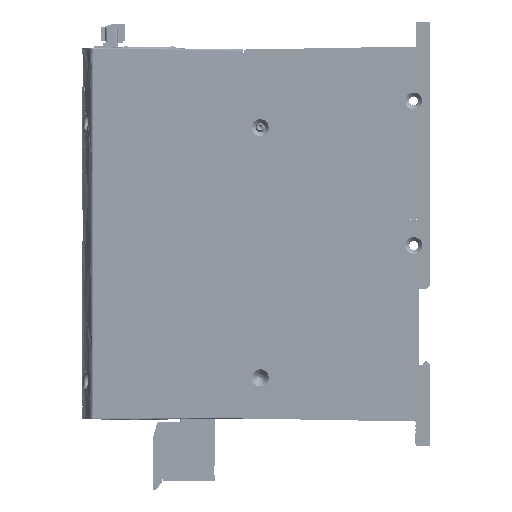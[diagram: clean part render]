
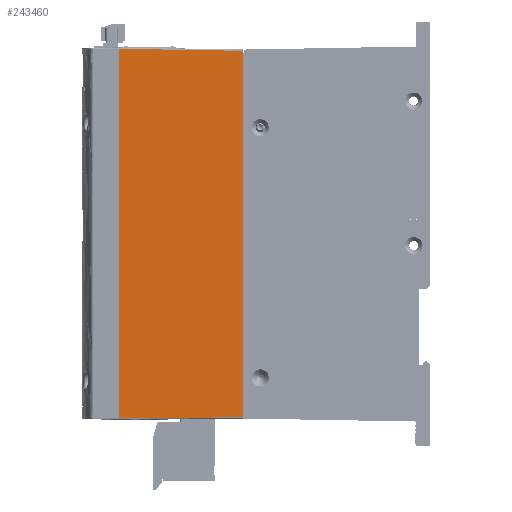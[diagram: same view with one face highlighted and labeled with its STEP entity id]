
A CAD part, left-side view. The second image highlights one B-rep face of the part: STEP entity #243460.
In plain terms, the highlighted planar face has unit normal (-1, -0.009, 0) as drawn and (-1, 0, -0.009) by its records, which use the part's own axes.
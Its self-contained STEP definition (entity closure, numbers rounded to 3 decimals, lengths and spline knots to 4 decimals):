
#13165=PLANE('',#256386);
#23799=FACE_OUTER_BOUND('',#35513,.T.);
#35513=EDGE_LOOP('',(#187643,#187644,#187645,#187646));
#49293=LINE('',#346351,#79332);
#50013=LINE('',#348396,#80052);
#50014=LINE('',#348399,#80053);
#50273=LINE('',#348994,#80312);
#79332=VECTOR('',#277457,0.3937);
#80052=VECTOR('',#279081,0.3937);
#80053=VECTOR('',#279084,0.3937);
#80312=VECTOR('',#279927,0.3937);
#114238=VERTEX_POINT('',#346348);
#114239=VERTEX_POINT('',#346350);
#114944=VERTEX_POINT('',#348394);
#114945=VERTEX_POINT('',#348398);
#144257=EDGE_CURVE('',#114239,#114238,#49293,.T.);
#145223=EDGE_CURVE('',#114944,#114238,#50013,.T.);
#145224=EDGE_CURVE('',#114239,#114945,#50014,.T.);
#145512=EDGE_CURVE('',#114944,#114945,#50273,.T.);
#187643=ORIENTED_EDGE('',*,*,#145223,.F.);
#187644=ORIENTED_EDGE('',*,*,#145512,.T.);
#187645=ORIENTED_EDGE('',*,*,#145224,.F.);
#187646=ORIENTED_EDGE('',*,*,#144257,.T.);
#243460=ADVANCED_FACE('',(#23799),#13165,.F.);
#256386=AXIS2_PLACEMENT_3D('',#349000,#279936,#279937);
#277457=DIRECTION('',(0.,1.,0.));
#279081=DIRECTION('',(-0.009,0.009,1.));
#279084=DIRECTION('',(0.009,0.016,-1.));
#279927=DIRECTION('',(0.,-1.,0.));
#279936=DIRECTION('center_axis',(1.,0.,
0.009));
#279937=DIRECTION('ref_axis',(0.009,0.,
-1.));
#346348=CARTESIAN_POINT('',(-5.4035,6.7955,2.3437));
#346350=CARTESIAN_POINT('',(-5.4035,0.0173,2.3437));
#346351=CARTESIAN_POINT('',(-5.4035,3.4075,2.3437));
#348394=CARTESIAN_POINT('',(-5.3835,6.7755,0.06));
#348396=CARTESIAN_POINT('',(-5.4005,6.7925,2.0024));
#348398=CARTESIAN_POINT('',(-5.3835,0.054,0.06));
#348399=CARTESIAN_POINT('',(-5.3885,0.0449,0.6302));
#348994=CARTESIAN_POINT('',(-5.3835,3.4125,0.06));
#349000=CARTESIAN_POINT('Origin',(-5.3949,3.41,1.3613));
